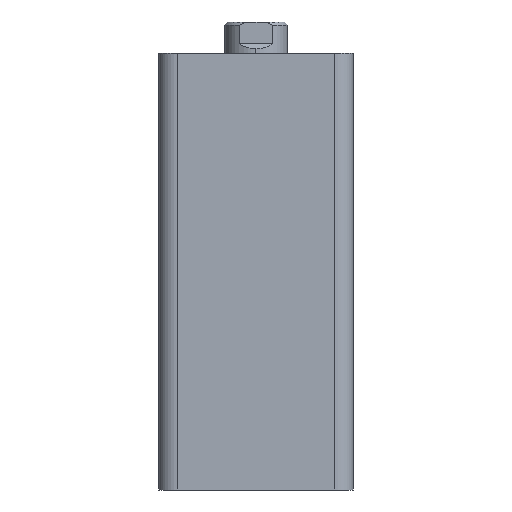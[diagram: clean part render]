
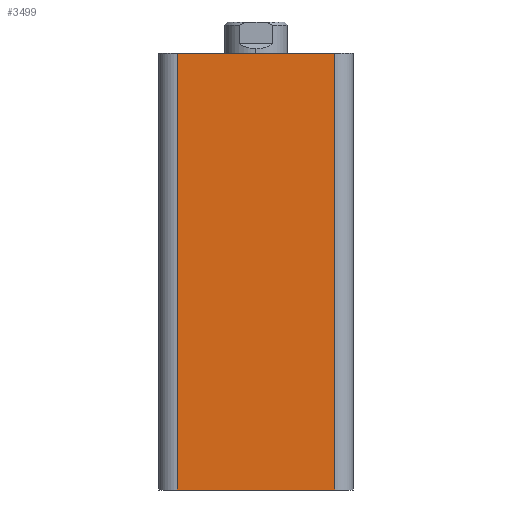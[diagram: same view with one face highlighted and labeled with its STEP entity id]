
A CAD part, left-side view. The second image highlights one B-rep face of the part: STEP entity #3499.
In plain terms, the highlighted planar face has unit normal (-1, 0, 0).
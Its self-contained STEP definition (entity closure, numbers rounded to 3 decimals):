
#320 = LINE ( 'NONE', #2921, #325 ) ;
#323 = LINE ( 'NONE', #2920, #327 ) ;
#325 = VECTOR ( 'NONE', #2916, 1000. ) ;
#327 = VECTOR ( 'NONE', #2926, 1000. ) ;
#386 = LINE ( 'NONE', #3124, #390 ) ;
#390 = VECTOR ( 'NONE', #3123, 1000. ) ;
#642 = FACE_OUTER_BOUND ( 'NONE', #1322, .T. ) ;
#653 = LINE ( 'NONE', #876, #655 ) ;
#655 = VECTOR ( 'NONE', #875, 1000. ) ;
#852 = CARTESIAN_POINT ( 'NONE',  ( -31., 31., 139. ) ) ;
#856 = PLANE ( 'NONE',  #4581 ) ;
#858 = DIRECTION ( 'NONE',  ( 1., 0., 0. ) ) ;
#859 = DIRECTION ( 'NONE',  ( 0., 0., -1. ) ) ;
#875 = DIRECTION ( 'NONE',  ( 0., -1., 0. ) ) ;
#876 = CARTESIAN_POINT ( 'NONE',  ( -31., 31., 139. ) ) ;
#1058 = CARTESIAN_POINT ( 'NONE',  ( -31., -25., 0. ) ) ;
#1059 = CARTESIAN_POINT ( 'NONE',  ( -31., 25., 0. ) ) ;
#1081 = CARTESIAN_POINT ( 'NONE',  ( -31., -25., 139. ) ) ;
#1101 = CARTESIAN_POINT ( 'NONE',  ( -31., 25., 139. ) ) ;
#1322 = EDGE_LOOP ( 'NONE', ( #3596, #3597, #3598, #3599 ) ) ;
#2916 = DIRECTION ( 'NONE',  ( 0., 0., 1. ) ) ;
#2920 = CARTESIAN_POINT ( 'NONE',  ( -31., 25., 139. ) ) ;
#2921 = CARTESIAN_POINT ( 'NONE',  ( -31., -25., 139. ) ) ;
#2926 = DIRECTION ( 'NONE',  ( 0., 0., -1. ) ) ;
#3123 = DIRECTION ( 'NONE',  ( 0., -1., 0. ) ) ;
#3124 = CARTESIAN_POINT ( 'NONE',  ( -31., 31., 0. ) ) ;
#3264 = EDGE_CURVE ( 'NONE', #4961, #4984, #320, .T. ) ;
#3265 = EDGE_CURVE ( 'NONE', #5004, #4962, #323, .T. ) ;
#3315 = EDGE_CURVE ( 'NONE', #4962, #4961, #386, .T. ) ;
#3499 = ADVANCED_FACE ( 'NONE', ( #642 ), #856, .F. ) ;
#3596 = ORIENTED_EDGE ( 'NONE', *, *, #3315, .T. ) ;
#3597 = ORIENTED_EDGE ( 'NONE', *, *, #3264, .T. ) ;
#3598 = ORIENTED_EDGE ( 'NONE', *, *, #4337, .F. ) ;
#3599 = ORIENTED_EDGE ( 'NONE', *, *, #3265, .T. ) ;
#4337 = EDGE_CURVE ( 'NONE', #5004, #4984, #653, .T. ) ;
#4581 = AXIS2_PLACEMENT_3D ( 'NONE', #852, #858, #859 ) ;
#4961 = VERTEX_POINT ( 'NONE', #1058 ) ;
#4962 = VERTEX_POINT ( 'NONE', #1059 ) ;
#4984 = VERTEX_POINT ( 'NONE', #1081 ) ;
#5004 = VERTEX_POINT ( 'NONE', #1101 ) ;
